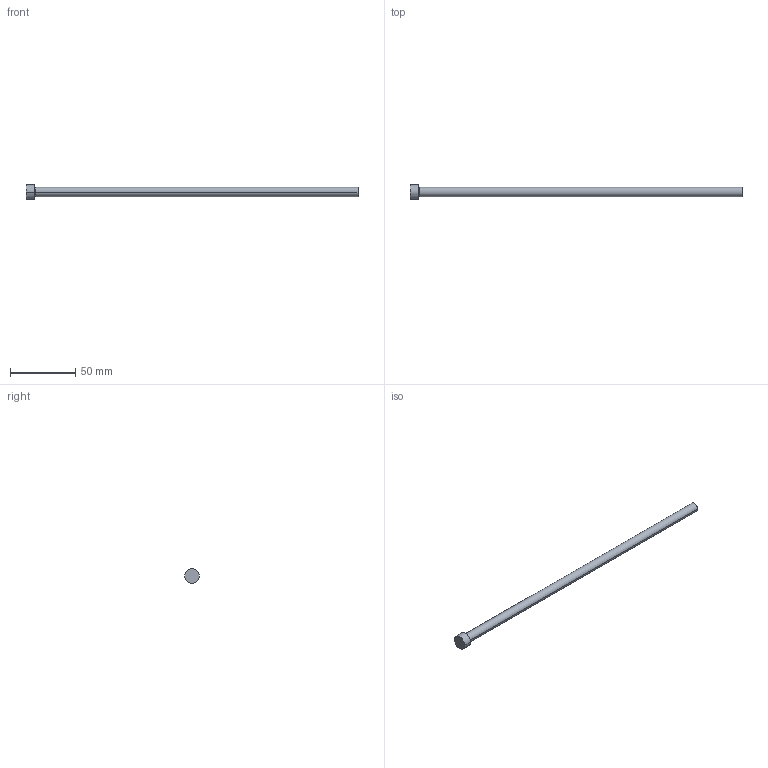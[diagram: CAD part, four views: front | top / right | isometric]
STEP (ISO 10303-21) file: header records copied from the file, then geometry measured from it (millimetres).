
FILE_DESCRIPTION (( 'STEP AP214' ), '1' );
FILE_NAME ('P19-10.STEP', '2020-03-12T09:00:10', ( '' ), ( '' ), 'SwSTEP 2.0', 'SolidWorks 2018', '' );
FILE_SCHEMA (( 'AUTOMOTIVE_DESIGN' ));
Length unit declared in the file: inch
Products named in the file (1): P19-10
Bounding box: 254 x 11.11 x 11.11 mm (x, y, z)
Volume: 10523.4 mm3; surface area: 5956.4 mm2
Topology: 1 solids, 1 shells, 13 faces, 24 edges, 14 vertices
Faces by surface type: cone 4, cylinder 4, plane 3, torus 2
Entity records: 366 total; most frequent: DIRECTION 68, CARTESIAN_POINT 52, ORIENTED_EDGE 48, AXIS2_PLACEMENT_3D 30, EDGE_CURVE 24, CIRCLE 16, EDGE_LOOP 14, VERTEX_POINT 14
